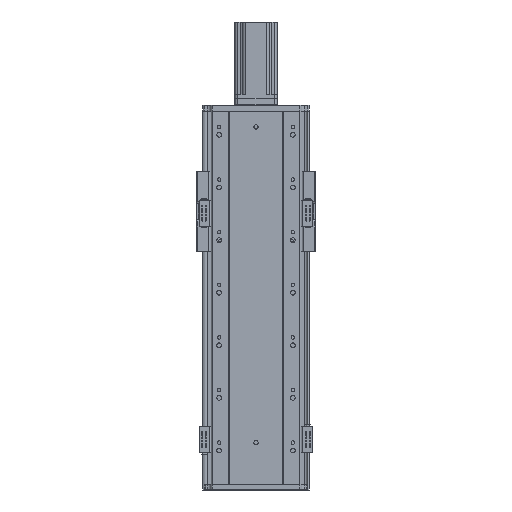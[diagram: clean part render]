
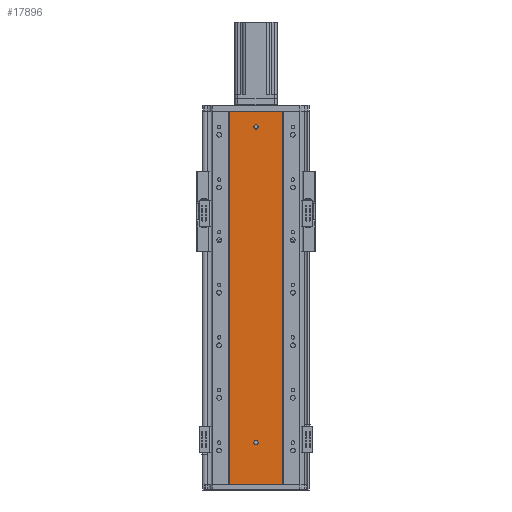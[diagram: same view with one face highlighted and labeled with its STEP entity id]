
A CAD part, front view. The second image highlights one B-rep face of the part: STEP entity #17896.
In plain terms, the highlighted planar face has unit normal (0, -1, 0).
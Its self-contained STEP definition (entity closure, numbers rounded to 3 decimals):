
#571 = CARTESIAN_POINT ( 'NONE',  ( 86.97, 79.476, 710. ) ) ;
#583 = CARTESIAN_POINT ( 'NONE',  ( 185.97, 79.476, 0. ) ) ;
#618 = CARTESIAN_POINT ( 'NONE',  ( 185.97, 79.476, 710. ) ) ;
#628 = CARTESIAN_POINT ( 'NONE',  ( 86.97, 79.476, 0. ) ) ;
#5684 = EDGE_CURVE ( 'NONE', #18653, #18652, #31845, .T. ) ;
#5717 = EDGE_CURVE ( 'NONE', #18689, #18691, #31889, .T. ) ;
#6596 = EDGE_CURVE ( 'NONE', #18652, #18653, #38571, .T. ) ;
#6600 = EDGE_CURVE ( 'NONE', #26763, #26816, #36630, .T. ) ;
#6622 = EDGE_CURVE ( 'NONE', #18691, #18689, #38590, .T. ) ;
#6642 = EDGE_CURVE ( 'NONE', #26763, #26775, #38633, .T. ) ;
#6643 = EDGE_CURVE ( 'NONE', #26775, #26785, #36632, .T. ) ;
#6679 = EDGE_CURVE ( 'NONE', #26816, #26785, #38749, .T. ) ;
#7925 = ORIENTED_EDGE ( 'NONE', *, *, #6600, .T. ) ;
#7929 = ORIENTED_EDGE ( 'NONE', *, *, #6642, .F. ) ;
#7943 = ORIENTED_EDGE ( 'NONE', *, *, #6596, .F. ) ;
#7945 = ORIENTED_EDGE ( 'NONE', *, *, #5717, .F. ) ;
#7958 = ORIENTED_EDGE ( 'NONE', *, *, #6643, .F. ) ;
#7959 = ORIENTED_EDGE ( 'NONE', *, *, #5684, .F. ) ;
#7970 = ORIENTED_EDGE ( 'NONE', *, *, #6622, .F. ) ;
#7997 = ORIENTED_EDGE ( 'NONE', *, *, #6679, .T. ) ;
#8674 = FACE_BOUND ( 'NONE', #13886, .T. ) ;
#8680 = FACE_BOUND ( 'NONE', #13839, .T. ) ;
#8700 = FACE_OUTER_BOUND ( 'NONE', #13841, .T. ) ;
#10478 = CARTESIAN_POINT ( 'NONE',  ( 136.47, 79.476, 684. ) ) ;
#10479 = CARTESIAN_POINT ( 'NONE',  ( 136.47, 79.476, 676. ) ) ;
#10531 = CARTESIAN_POINT ( 'NONE',  ( 136.47, 79.476, 76. ) ) ;
#10534 = CARTESIAN_POINT ( 'NONE',  ( 136.47, 79.476, 84. ) ) ;
#12724 = DIRECTION ( 'NONE',  ( 0., 0., -1. ) ) ;
#12730 = DIRECTION ( 'NONE',  ( 0., -1., 0. ) ) ;
#12750 = CARTESIAN_POINT ( 'NONE',  ( 136.47, 79.476, 80. ) ) ;
#13519 = DIRECTION ( 'NONE',  ( 0., -1., 0. ) ) ;
#13522 = CARTESIAN_POINT ( 'NONE',  ( 136.47, 79.476, 680. ) ) ;
#13524 = DIRECTION ( 'NONE',  ( 0., 0., -1. ) ) ;
#13839 = EDGE_LOOP ( 'NONE', ( #7943, #7959 ) ) ;
#13841 = EDGE_LOOP ( 'NONE', ( #7997, #7958, #7929, #7925 ) ) ;
#13886 = EDGE_LOOP ( 'NONE', ( #7970, #7945 ) ) ;
#17896 = ADVANCED_FACE ( 'NONE', ( #8680, #8674, #8700 ), #36057, .F. ) ;
#18652 = VERTEX_POINT ( 'NONE', #10479 ) ;
#18653 = VERTEX_POINT ( 'NONE', #10478 ) ;
#18689 = VERTEX_POINT ( 'NONE', #10534 ) ;
#18691 = VERTEX_POINT ( 'NONE', #10531 ) ;
#26763 = VERTEX_POINT ( 'NONE', #571 ) ;
#26775 = VERTEX_POINT ( 'NONE', #618 ) ;
#26785 = VERTEX_POINT ( 'NONE', #583 ) ;
#26816 = VERTEX_POINT ( 'NONE', #628 ) ;
#28330 = AXIS2_PLACEMENT_3D ( 'NONE', #13522, #13519, #13524 ) ;
#28333 = AXIS2_PLACEMENT_3D ( 'NONE', #12750, #12730, #12724 ) ;
#28605 = AXIS2_PLACEMENT_3D ( 'NONE', #34154, #34130, #34136 ) ;
#28607 = AXIS2_PLACEMENT_3D ( 'NONE', #34225, #34206, #34215 ) ;
#28796 = AXIS2_PLACEMENT_3D ( 'NONE', #36070, #36071, #36067 ) ;
#31845 = CIRCLE ( 'NONE', #28330, 4. ) ;
#31889 = CIRCLE ( 'NONE', #28333, 4. ) ;
#34128 = CARTESIAN_POINT ( 'NONE',  ( 86.97, 79.476, 710. ) ) ;
#34130 = DIRECTION ( 'NONE',  ( 0., -1., 0. ) ) ;
#34132 = CARTESIAN_POINT ( 'NONE',  ( 86.97, 79.476, 236.667 ) ) ;
#34136 = DIRECTION ( 'NONE',  ( 0., 0., -1. ) ) ;
#34137 = CARTESIAN_POINT ( 'NONE',  ( 86.97, 79.476, 0. ) ) ;
#34139 = CARTESIAN_POINT ( 'NONE',  ( 86.97, 79.476, 473.333 ) ) ;
#34154 = CARTESIAN_POINT ( 'NONE',  ( 136.47, 79.476, 680. ) ) ;
#34206 = DIRECTION ( 'NONE',  ( 0., -1., 0. ) ) ;
#34215 = DIRECTION ( 'NONE',  ( 0., 0., -1. ) ) ;
#34225 = CARTESIAN_POINT ( 'NONE',  ( 136.47, 79.476, 80. ) ) ;
#34242 = DIRECTION ( 'NONE',  ( 1., 0., 0. ) ) ;
#34253 = CARTESIAN_POINT ( 'NONE',  ( 185.97, 79.476, 0. ) ) ;
#34265 = CARTESIAN_POINT ( 'NONE',  ( 0., 79.476, 710. ) ) ;
#34268 = CARTESIAN_POINT ( 'NONE',  ( 185.97, 79.476, 710. ) ) ;
#34274 = CARTESIAN_POINT ( 'NONE',  ( 185.97, 79.476, 236.667 ) ) ;
#34279 = CARTESIAN_POINT ( 'NONE',  ( 185.97, 79.476, 473.333 ) ) ;
#34302 = DIRECTION ( 'NONE',  ( 1., 0., 0. ) ) ;
#34321 = CARTESIAN_POINT ( 'NONE',  ( 0., 79.476, 0. ) ) ;
#36057 = PLANE ( 'NONE',  #28796 ) ;
#36067 = DIRECTION ( 'NONE',  ( 0., 0., 1. ) ) ;
#36070 = CARTESIAN_POINT ( 'NONE',  ( 0., 79.476, 710. ) ) ;
#36071 = DIRECTION ( 'NONE',  ( 0., 1., 0. ) ) ;
#36630 = B_SPLINE_CURVE_WITH_KNOTS ( 'NONE', 3,
 ( #34128, #34139, #34132, #34137 ),
 .UNSPECIFIED., .F., .F.,
 ( 4, 4 ),
 ( 0., 1. ),
 .UNSPECIFIED. ) ;
#36632 = B_SPLINE_CURVE_WITH_KNOTS ( 'NONE', 3,
 ( #34268, #34279, #34274, #34253 ),
 .UNSPECIFIED., .F., .F.,
 ( 4, 4 ),
 ( 0., 1. ),
 .UNSPECIFIED. ) ;
#38571 = CIRCLE ( 'NONE', #28605, 4. ) ;
#38590 = CIRCLE ( 'NONE', #28607, 4. ) ;
#38633 = LINE ( 'NONE', #34265, #38679 ) ;
#38679 = VECTOR ( 'NONE', #34242, 1000. ) ;
#38731 = VECTOR ( 'NONE', #34302, 1000. ) ;
#38749 = LINE ( 'NONE', #34321, #38731 ) ;
